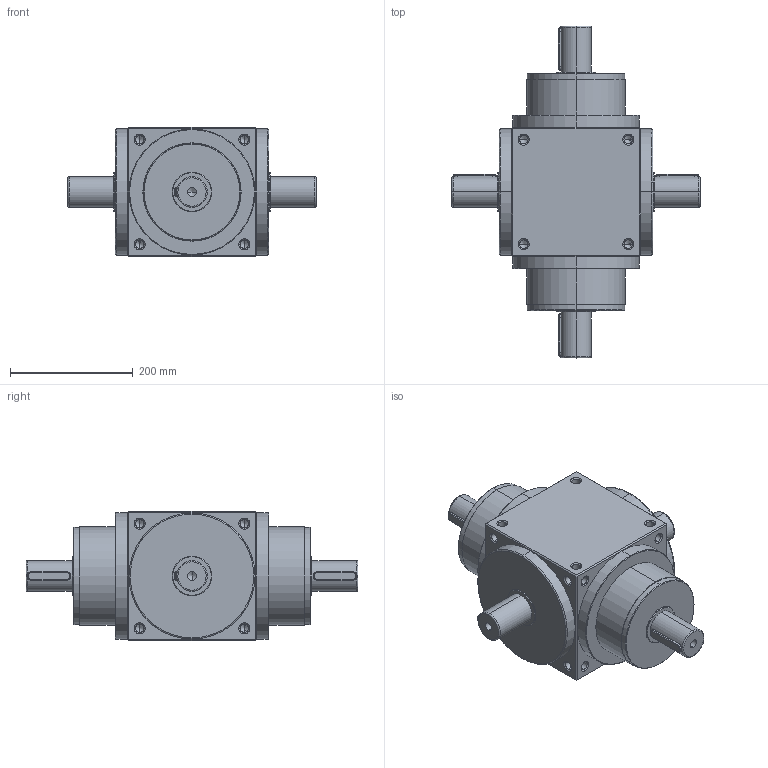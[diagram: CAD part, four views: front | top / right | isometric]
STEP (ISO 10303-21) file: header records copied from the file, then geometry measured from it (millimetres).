
FILE_DESCRIPTION (( 'STEP AP214' ), '1' );
FILE_NAME ('AT210-L-001.STEP', '2020-11-18T08:25:50', ( '微软用户' ), ( '微软中国' ), 'SwSTEP 2.0', 'SolidWorks 2014', '' );
FILE_SCHEMA (( 'AUTOMOTIVE_DESIGN' ));
Length unit declared in the file: millimetre
Products named in the file (2): AT210-L-001
Bounding box: 404 x 540 x 210 mm (x, y, z)
Volume: 15106407 mm3; surface area: 528084.2 mm2
Topology: 2 solids, 2 shells, 348 faces, 879 edges, 494 vertices
Faces by surface type: cylinder 144, cone 129, plane 63, bspline 12
Entity records: 13876 total; most frequent: CARTESIAN_POINT 2723, ORIENTED_EDGE 1646, DIRECTION 1601, EDGE_CURVE 823, AXIS2_PLACEMENT_3D 620, VERTEX_POINT 494, EDGE_LOOP 395, VECTOR 361
